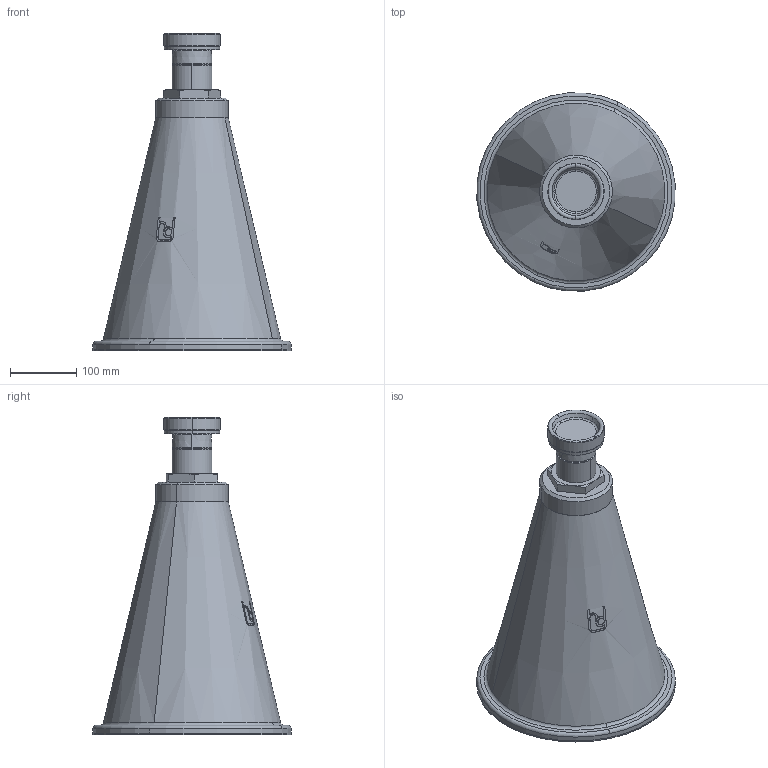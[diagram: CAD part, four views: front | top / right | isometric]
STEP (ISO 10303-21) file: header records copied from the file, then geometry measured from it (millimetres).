
FILE_DESCRIPTION(('STEP AP214'),'1');
FILE_NAME('RSRFB-09-V0.stp','2018-06-26T13:20:59',(' '),(' '),'Spatial InterOp 3D',' ',' ');
FILE_SCHEMA(('automotive_design'));
Length unit declared in the file: millimetre
Products named in the file (6): 1; 2; 3; 4; 5; 6
Bounding box: 298.95 x 298.95 x 478.8 mm (x, y, z)
Volume: 12293867.5 mm3; surface area: 574435.1 mm2
Topology: 6 solids, 7 shells, 122 faces, 290 edges, 186 vertices
Faces by surface type: plane 42, cylinder 37, cone 29, torus 14
Entity records: 5022 total; most frequent: CARTESIAN_POINT 1051, DIRECTION 641, ORIENTED_EDGE 580, EDGE_CURVE 290, AXIS2_PLACEMENT_3D 264, VERTEX_POINT 186, EDGE_LOOP 130, STYLED_ITEM 128
